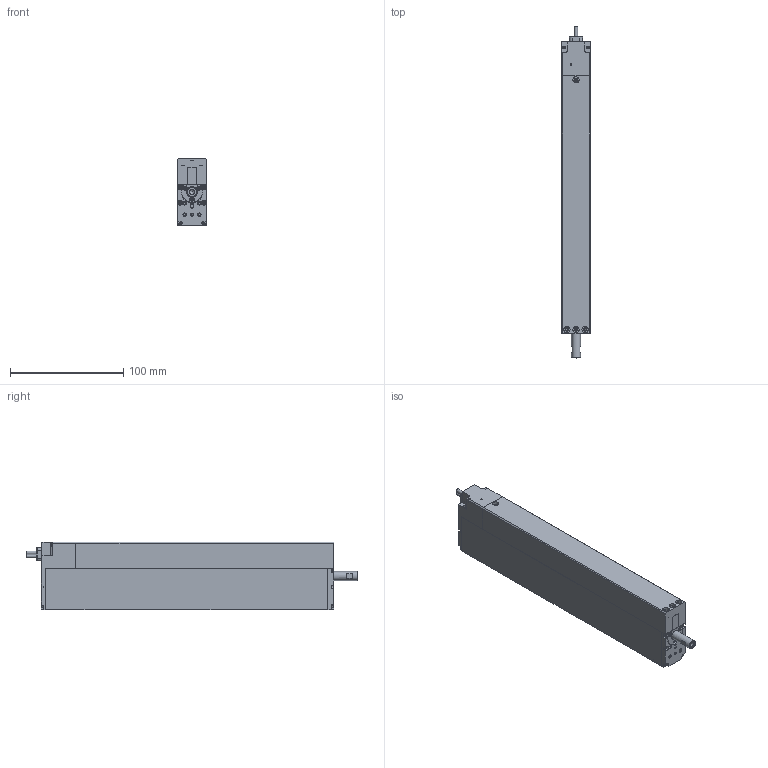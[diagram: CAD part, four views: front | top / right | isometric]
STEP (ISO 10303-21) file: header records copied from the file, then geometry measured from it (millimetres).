
FILE_DESCRIPTION((''),'2;1');
FILE_NAME('C:\smac-cad\WEB UPDATE SOLID MODELS\DEC2012\LCA25-150-1_A.stp','2012-12-07T09:08:21',('karl'),(''),'Autodesk Inventor 2008','Autodesk Inventor 2008','');
FILE_SCHEMA(('AUTOMOTIVE_DESIGN { 1 0 10303 214 1 1 1 1 }'));
Length unit declared in the file: millimetre
Products named in the file (12): LCA25-150-1_A 3D; 11616-01_A; 140141-01_A; 11604-01_B; 180033-01_A; LCA25-COVER; 23622-01_B3; CABLE-G_B; AS 1427 (8) - Metric M2 x 4; LCA25-150-1-PIS_A; 16582-05_AKARL; 140142-02_A
Assembly tree (12 placements, depth 3):
  LCA25-150-1_A 3D
    11616-01_A
    140141-01_A
    11604-01_B
    180033-01_A
    LCA25-COVER
      23622-01_B3
      CABLE-G_B
    AS 1427 (8) - Metric M2 x 4  x2
    LCA25-150-1-PIS_A
      16582-05_AKARL
    140142-02_A
Bounding box: 25 x 293 x 60 mm (x, y, z)
Volume: 400811.3 mm3; surface area: 84326.9 mm2
Topology: 10 solids, 10 shells, 541 faces, 1382 edges, 892 vertices
Faces by surface type: plane 293, cylinder 159, cone 77, torus 12
Full cylindrical faces by diameter (mm): 1.509 x2, 1.567 x20, 2 x2, 2.013 x5, 2.2 x3, 2.4 x14, 2.459 x18, 2.5 x2, 2.9 x4, 3 x3, 4 x1, 4.134 x1, 4.4 x2, 5 x1, 5.5 x4, 8 x1, 9 x1, 10 x1, 11.1 x1, 11.5 x2, 14 x1
Entity records: 15394 total; most frequent: CARTESIAN_POINT 2752, DIRECTION 2634, ORIENTED_EDGE 2290, EDGE_CURVE 1145, AXIS2_PLACEMENT_3D 965, VERTEX_POINT 819, EDGE_LOOP 785, VECTOR 704
